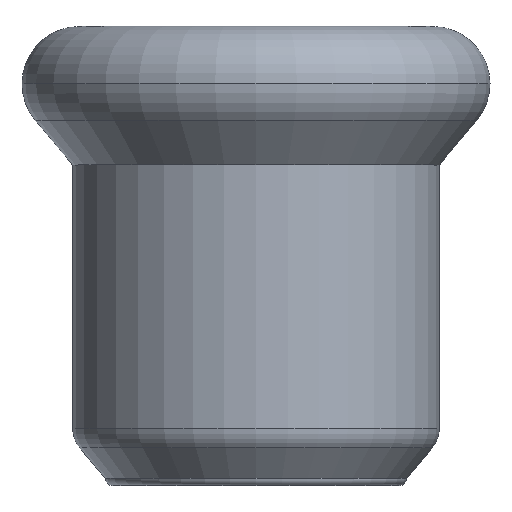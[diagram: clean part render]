
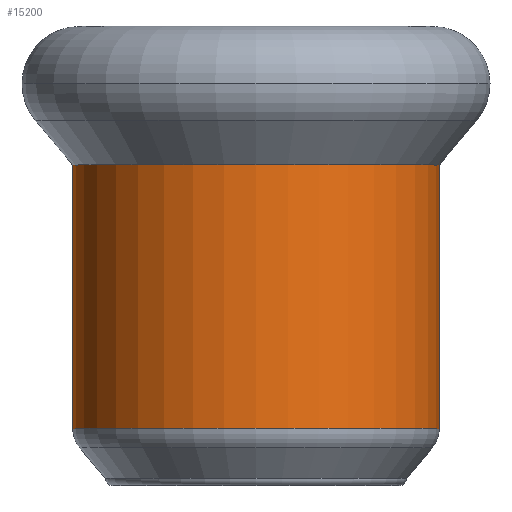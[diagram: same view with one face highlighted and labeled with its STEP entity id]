
A CAD part, top view. The second image highlights one B-rep face of the part: STEP entity #15200.
In plain terms, the highlighted cylindrical face has radius 9.125 mm (diameter 18.25 mm), a partial arc.
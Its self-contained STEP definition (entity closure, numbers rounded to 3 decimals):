
#3220=CARTESIAN_POINT('',(-105.318,41.391,0.));
#3230=VERTEX_POINT('',#3220);
#3400=CARTESIAN_POINT('',(-87.068,41.391,0.));
#3410=VERTEX_POINT('',#3400);
#3440=CARTESIAN_POINT('',(-96.193,41.391,0.));
#3450=DIRECTION('',(0.,-1.,0.));
#3460=DIRECTION('',(-1.,0.,0.));
#3470=AXIS2_PLACEMENT_3D('',#3440,#3450,#3460);
#3480=CIRCLE('',#3470,9.125);
#3630=CARTESIAN_POINT('',(-87.068,54.512,0.));
#3640=VERTEX_POINT('',#3630);
#3820=CARTESIAN_POINT('',(-105.318,54.512,
0.));
#3830=VERTEX_POINT('',#3820);
#3860=CARTESIAN_POINT('',(-96.193,54.512,0.));
#3870=DIRECTION('',(0.,1.,0.));
#3880=DIRECTION('',(-1.,0.,0.));
#3890=AXIS2_PLACEMENT_3D('',#3860,#3870,#3880);
#3900=CIRCLE('',#3890,9.125);
#3960=CARTESIAN_POINT('',(-96.193,47.688,0.));
#3970=DIRECTION('',(0.,-1.,0.));
#3980=DIRECTION('',(-1.,0.,0.));
#3990=AXIS2_PLACEMENT_3D('',#3960,#3970,#3980);
#4000=CYLINDRICAL_SURFACE('',#3990,9.125);
#4010=CARTESIAN_POINT('',(-87.068,47.688,
0.));
#4020=DIRECTION('',(0.,-1.,0.));
#4030=VECTOR('',#4020,1.);
#4040=LINE('',#4010,#4030);
#4050=EDGE_CURVE('',#3640,#3410,#4040,.T.);
#4080=CARTESIAN_POINT('',(-105.318,47.688,0.));
#4090=DIRECTION('',(0.,-1.,0.));
#4100=VECTOR('',#4090,1.);
#4110=LINE('',#4080,#4100);
#4120=EDGE_CURVE('',#3830,#3230,#4110,.T.);
#14970=EDGE_CURVE('',#3830,#3640,#3900,.T.);
#15130=ORIENTED_EDGE('',*,*,#14970,.F.);
#15140=ORIENTED_EDGE('',*,*,#4050,.F.);
#15150=EDGE_CURVE('',#3410,#3230,#3480,.T.);
#15160=ORIENTED_EDGE('',*,*,#15150,.F.);
#15170=ORIENTED_EDGE('',*,*,#4120,.T.);
#15180=EDGE_LOOP('',(#15170,#15160,#15140,#15130));
#15190=FACE_OUTER_BOUND('',#15180,.T.);
#15200=ADVANCED_FACE('',(#15190),#4000,.T.);
